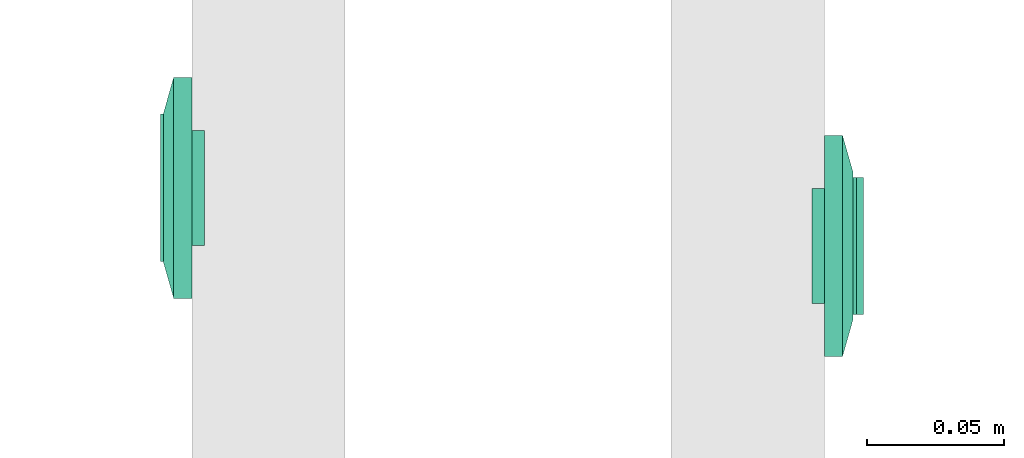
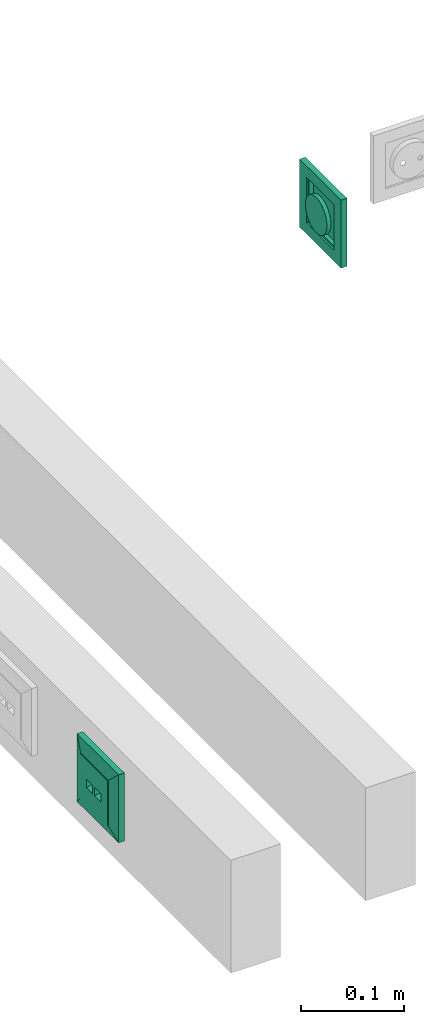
# One storey, part 91 of 166: 2 flow terminals.
"""IFC2X3 building model written with IfcOpenShell, lengths in metres."""

from ifc_helpers import new_model, entity, si_unit, converted_unit, derived_unit, direction, frame, origin, place, context, subcontext, project, spatial, faceted_brep, source, transform, mapped, type_object, type_shapes, element, save


model = new_model("IFC2X3")

# Units and contexts
model_context = context("Model", 3, precision=1e-05, world=origin(), true_north=direction((6.12303176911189e-17, 1.0)))
body_context = subcontext(model_context, "Body", "Model", "MODEL_VIEW")
ifc_project = project(units=[si_unit("LENGTHUNIT", "METRE"), si_unit("AREAUNIT", "SQUARE_METRE"), si_unit("VOLUMEUNIT", "CUBIC_METRE"), converted_unit("PLANEANGLEUNIT", "DEGREE", entity("IfcRatioMeasure", 0.0174532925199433), si_unit("PLANEANGLEUNIT", "RADIAN"), dimensions=[0, 0, 0, 0, 0, 0, 0]), si_unit("MASSUNIT", "GRAM", prefix="KILO"), derived_unit("MASSDENSITYUNIT", [(si_unit("MASSUNIT", "GRAM", prefix="KILO"), 1), (si_unit("LENGTHUNIT", "METRE"), -3)]), si_unit("TIMEUNIT", "SECOND"), si_unit("FREQUENCYUNIT", "HERTZ"), si_unit("THERMODYNAMICTEMPERATUREUNIT", "DEGREE_CELSIUS"), derived_unit("THERMALTRANSMITTANCEUNIT", [(si_unit("MASSUNIT", "GRAM", prefix="KILO"), 1), (si_unit("THERMODYNAMICTEMPERATUREUNIT", "KELVIN"), -1), (si_unit("TIMEUNIT", "SECOND"), -3)]), derived_unit("VOLUMETRICFLOWRATEUNIT", [(si_unit("LENGTHUNIT", "METRE"), 3), (si_unit("TIMEUNIT", "SECOND"), -1)]), si_unit("ELECTRICCURRENTUNIT", "AMPERE"), si_unit("ELECTRICVOLTAGEUNIT", "VOLT"), si_unit("POWERUNIT", "WATT"), si_unit("FORCEUNIT", "NEWTON"), si_unit("ILLUMINANCEUNIT", "LUX"), si_unit("LUMINOUSFLUXUNIT", "LUMEN"), si_unit("LUMINOUSINTENSITYUNIT", "CANDELA"), derived_unit("USERDEFINED", [(si_unit("MASSUNIT", "GRAM", prefix="KILO"), -1), (si_unit("LENGTHUNIT", "METRE"), -2), (si_unit("TIMEUNIT", "SECOND"), 3), (si_unit("LUMINOUSFLUXUNIT", "LUMEN"), 1)]), derived_unit("LINEARVELOCITYUNIT", [(si_unit("LENGTHUNIT", "METRE"), 1), (si_unit("TIMEUNIT", "SECOND"), -1)]), si_unit("PRESSUREUNIT", "PASCAL"), derived_unit("USERDEFINED", [(si_unit("LENGTHUNIT", "METRE"), -2), (si_unit("MASSUNIT", "GRAM", prefix="KILO"), 1), (si_unit("TIMEUNIT", "SECOND"), -2)])], contexts=[model_context])

# Site, building, storey
site_placement = place(None, origin())
site = spatial("IfcSite", under=ifc_project, at=site_placement, Name="Default", CompositionType="ELEMENT")
building_placement = place(site_placement, origin())
building = spatial("IfcBuilding", under=site, at=building_placement, CompositionType="ELEMENT")
storey_placement = place(building_placement, frame((0.0, 0.0, 4.27)))
storey = spatial("IfcBuildingStorey", under=building, at=storey_placement, Name="01", CompositionType="ELEMENT", Elevation=4.27)

# Flow terminals
electric_appliance_type = type_object("IfcElectricApplianceType", Name="RJ45 IP20", PredefinedType="NOTDEFINED")
shared_shape_1 = source(origin(), body_context, "Body", "Brep", [
    faceted_brep([(0.00200000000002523, 0.0, 0.00799999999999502), (0.00400000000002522, 0.0, 0.00799999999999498), (0.00500000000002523, 0.00199999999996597, 0.00799999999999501), (0.0110000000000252, 0.00199999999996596, 0.00799999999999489), (0.0120000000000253, 0.0, 0.00799999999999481), (0.0140000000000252, 0.0, 0.00799999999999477), (0.0140000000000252, 0.00399999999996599, 0.00799999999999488), (0.00200000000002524, 0.00399999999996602, 0.00799999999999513), (0.00200000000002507, 0.0, 0.0), (0.00200000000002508, 0.00399999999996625, 0.0), (0.0140000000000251, 0.00399999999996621, 0.0), (0.0140000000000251, 0.0, 0.0), (0.0120000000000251, 0.0, 0.0), (0.0110000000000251, 0.00199999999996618, 0.0), (0.00500000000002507, 0.0019999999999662, 0.0), (0.00400000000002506, 0.0, 0.0)], [[[0, 1, 2, 3, 4, 5, 6, 7]], [[8, 9, 10, 11, 12, 13, 14, 15]], [[1, 0, 8, 15]], [[2, 1, 15, 14]], [[3, 2, 14, 13]], [[4, 3, 13, 12]], [[5, 4, 12, 11]], [[6, 5, 11, 10]], [[7, 6, 10, 9]], [[0, 7, 9, 8]]]),
    faceted_brep([(-0.0139999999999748, 0.0, 0.00799999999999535), (-0.0119999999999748, 0.0, 0.00799999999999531), (-0.0109999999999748, 0.00199999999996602, 0.00799999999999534), (-0.00499999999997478, 0.00199999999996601, 0.00799999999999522), (-0.0039999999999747, 0.0, 0.00799999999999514), (-0.00199999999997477, 0.0, 0.0079999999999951), (-0.00199999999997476, 0.00399999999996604, 0.00799999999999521), (-0.0139999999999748, 0.00399999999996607, 0.00799999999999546), (-0.0139999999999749, 0.0, 0.0), (-0.0139999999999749, 0.00399999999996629, 0.0), (-0.00199999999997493, 0.00399999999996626, 0.0), (-0.00199999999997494, 0.0, 0.0), (-0.00399999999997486, 0.0, 0.0), (-0.00499999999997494, 0.00199999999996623, 0.0), (-0.0109999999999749, 0.00199999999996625, 0.0), (-0.0119999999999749, 0.0, 0.0)], [[[0, 1, 2, 3, 4, 5, 6, 7]], [[8, 9, 10, 11, 12, 13, 14, 15]], [[1, 0, 8, 15]], [[2, 1, 15, 14]], [[3, 2, 14, 13]], [[4, 3, 13, 12]], [[5, 4, 12, 11]], [[6, 5, 11, 10]], [[7, 6, 10, 9]], [[0, 7, 9, 8]]]),
    faceted_brep([(0.0140000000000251, 0.00399999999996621, 0.0), (0.00200000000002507, 0.00399999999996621, 0.0), (0.00200000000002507, -0.00350000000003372, 0.0), (0.0140000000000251, -0.00350000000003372, 0.0), (0.0140000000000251, 0.00399999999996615, 0.00199999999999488), (0.00200000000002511, 0.00399999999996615, 0.00199999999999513), (0.00200000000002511, -0.00393859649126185, 0.00199999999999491), (0.0140000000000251, -0.00393859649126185, 0.00199999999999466), (0.0210000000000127, 0.0209999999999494, 0.00199999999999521), (-0.0209999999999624, 0.0209999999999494, 0.00199999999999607), (-0.0209999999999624, -0.0210000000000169, 0.00199999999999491), (0.0210000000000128, -0.0210000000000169, 0.00199999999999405), (-0.0139999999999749, 0.0039999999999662, 0.00199999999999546), (-0.0019999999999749, 0.0039999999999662, 0.00199999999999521), (-0.00199999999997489, -0.0039385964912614, 0.00199999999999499), (-0.0139999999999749, -0.00393859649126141, 0.00199999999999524), (0.0210000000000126, 0.0209999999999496, -0.00460000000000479), (0.0210000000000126, -0.0210000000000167, -0.00460000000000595), (-0.0209999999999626, -0.0210000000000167, -0.00460000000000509), (-0.0209999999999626, 0.0209999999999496, -0.00460000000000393), (-0.00199999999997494, 0.00399999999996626, 0.0), (-0.0139999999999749, 0.00399999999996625, 0.0), (-0.0139999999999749, -0.00350000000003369, 0.0), (-0.00199999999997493, -0.00350000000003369, 0.0)], [[[0, 1, 2, 3]], [[1, 0, 4, 5]], [[2, 1, 5, 6]], [[3, 2, 6, 7]], [[0, 3, 7, 4]], [[5, 4, 7, 6], [8, 9, 10, 11], [12, 13, 14, 15]], [[16, 17, 18, 19]], [[9, 8, 16, 19]], [[10, 9, 19, 18]], [[11, 10, 18, 17]], [[8, 11, 17, 16]], [[20, 21, 22, 23]], [[21, 20, 13, 12]], [[22, 21, 12, 15]], [[23, 22, 15, 14]], [[20, 23, 14, 13]]], outer=[[True], [True], [True], [True], [True], [False, True, False], [True], [True], [True], [True], [True], [True], [True], [True], [True], [True]]),
    faceted_brep([(0.0270000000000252, 0.026999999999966, 0.0113999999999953), (-0.0269999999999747, 0.026999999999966, 0.0113999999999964), (-0.0269999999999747, -0.0270000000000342, 0.0113999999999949), (0.0270000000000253, -0.0270000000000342, 0.0113999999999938), (0.0020000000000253, 0.00399999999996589, 0.0113999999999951), (0.0140000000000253, 0.00399999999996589, 0.0113999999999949), (0.0140000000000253, -0.00600000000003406, 0.0113999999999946), (0.0020000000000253, -0.00600000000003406, 0.0113999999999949), (-0.0139999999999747, 0.00399999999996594, 0.0113999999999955), (-0.00199999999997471, 0.00399999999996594, 0.0113999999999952), (-0.00199999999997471, -0.0060000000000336, 0.0113999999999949), (-0.0139999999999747, -0.00600000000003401, 0.0113999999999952), (0.0270000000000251, 0.0269999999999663, 0.00199999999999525), (0.0270000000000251, -0.0270000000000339, 0.00199999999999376), (-0.0269999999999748, -0.0270000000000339, 0.00199999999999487), (-0.0269999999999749, 0.0269999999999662, 0.00199999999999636), (0.0140000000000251, 0.00399999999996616, 0.00199999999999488), (0.00200000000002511, 0.00399999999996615, 0.00199999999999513), (0.00200000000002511, -0.00393859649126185, 0.00199999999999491), (0.0140000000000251, -0.00393859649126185, 0.00199999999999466), (-0.00199999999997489, 0.0039999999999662, 0.00199999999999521), (-0.0139999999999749, 0.0039999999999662, 0.00199999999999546), (-0.0139999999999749, -0.0039385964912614, 0.00199999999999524), (-0.00199999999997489, -0.0039385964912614, 0.00199999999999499)], [[[0, 1, 2, 3], [4, 5, 6, 7], [8, 9, 10, 11]], [[12, 13, 14, 15], [16, 17, 18, 19], [20, 21, 22, 23]], [[1, 0, 12, 15]], [[2, 1, 15, 14]], [[3, 2, 14, 13]], [[0, 3, 13, 12]], [[4, 17, 16, 5]], [[17, 4, 7, 18]], [[18, 7, 6, 19]], [[5, 16, 19, 6]], [[8, 21, 20, 9]], [[21, 8, 11, 22]], [[22, 11, 10, 23]], [[9, 20, 23, 10]]]),
    faceted_brep([(0.027000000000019, 0.0269999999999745, 0.00659999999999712), (-0.0269999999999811, 0.0269999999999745, 0.00659999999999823), (-0.026999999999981, -0.0270000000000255, 0.00659999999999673), (0.027000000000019, -0.0270000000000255, 0.00659999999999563), (0.040350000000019, 0.0403499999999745, 0.00659999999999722), (0.040350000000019, -0.0403500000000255, 0.00659999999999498), (-0.0403499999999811, -0.0403500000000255, 0.00659999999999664), (-0.0403499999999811, 0.0403499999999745, 0.00659999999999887), (-0.026999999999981, 0.0269999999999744, 0.0103999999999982), (0.027000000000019, 0.0269999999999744, 0.0103999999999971), (-0.026999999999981, -0.0270000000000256, 0.0103999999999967), (0.027000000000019, -0.0270000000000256, 0.0103999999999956)], [[[0, 1, 2, 3], [4, 5, 6, 7]], [[4, 7, 8, 9]], [[7, 6, 10, 8]], [[6, 5, 11, 10]], [[5, 4, 9, 11]], [[0, 9, 8, 1]], [[1, 8, 10, 2]], [[2, 10, 11, 3]], [[9, 0, 3, 11]]], outer=[[False, True], [True], [True], [True], [True], [True], [True], [True], [True]]),
    faceted_brep([(0.040350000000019, 0.0403499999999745, 0.00659999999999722), (-0.0403499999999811, 0.0403499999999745, 0.00659999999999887), (-0.0403499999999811, -0.0403500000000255, 0.00659999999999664), (0.040350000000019, -0.0403500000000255, 0.00659999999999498), (-0.0269999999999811, 0.0269999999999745, 0.00659999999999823), (0.0270000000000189, 0.0269999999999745, 0.00659999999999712), (0.0270000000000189, -0.0270000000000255, 0.00659999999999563), (-0.0269999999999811, -0.0270000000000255, 0.00659999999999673), (0.0403500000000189, 0.0403499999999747, 0.0), (0.0403500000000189, -0.0403500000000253, 0.0), (-0.0403499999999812, -0.0403500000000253, 0.0), (-0.0403499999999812, 0.0403499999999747, 0.0), (0.0270000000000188, 0.0269999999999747, 0.0), (-0.0269999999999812, 0.0269999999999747, 0.0), (-0.0269999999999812, -0.0270000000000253, 0.0), (0.0270000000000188, -0.0270000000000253, 0.0)], [[[0, 1, 2, 3], [4, 5, 6, 7]], [[8, 9, 10, 11], [12, 13, 14, 15]], [[1, 0, 8, 11]], [[2, 1, 11, 10]], [[3, 2, 10, 9]], [[0, 3, 9, 8]], [[12, 5, 4, 13]], [[13, 4, 7, 14]], [[14, 7, 6, 15]], [[5, 12, 15, 6]]]),
])
type_shapes(electric_appliance_type, [shared_shape_1])
flow_terminal_1_placement = place(storey_placement, frame((53.3787436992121, -191.789829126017, 0.438000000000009), z_axis=(-1.0, 0.0, 0.0), x_axis=(0.0, -1.0, 0.0)))
element("IfcFlowTerminal", 1, at=flow_terminal_1_placement, inside=storey, type_object=electric_appliance_type, Name="INT_Prise RJ45:RJ45 IP20", ObjectType="INT_Prise RJ45:RJ45 IP20", context=body_context, shape_type="MappedRepresentation", body=[
    mapped(shared_shape_1, transform((0.0, 0.0, 0.0), scale=1.0)),
])
light_fixture_type = type_object("IfcLightFixtureType", Name="BP IP21", PredefinedType="NOTDEFINED")
shared_shape_2 = source(origin(), body_context, "Body", "Brep", [
    faceted_brep([(0.0, 0.0209999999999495, -0.00460000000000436), (0.00543519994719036, 0.02028444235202, -0.00460000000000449), (0.0105000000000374, 0.0181865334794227, -0.00460000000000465), (0.0148492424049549, 0.014849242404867, -0.00460000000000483), (0.0181865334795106, 0.0104999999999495, -0.00460000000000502), (0.0202844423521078, 0.00543519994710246, -0.00460000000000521), (0.0210000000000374, 0.0, -0.00460000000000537), (0.0202844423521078, -0.00543519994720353, -0.00460000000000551), (0.0181865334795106, -0.0105000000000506, -0.0046000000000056), (0.0148492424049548, -0.0148492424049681, -0.00460000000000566), (0.0105000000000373, -0.0181865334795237, -0.00460000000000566), (0.00543519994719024, -0.0202844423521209, -0.00460000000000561), (0.0, -0.0210000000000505, -0.00460000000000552), (-0.00543519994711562, -0.0202844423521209, -0.00460000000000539), (-0.0104999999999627, -0.0181865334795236, -0.00460000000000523), (-0.0148492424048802, -0.0148492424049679, -0.00460000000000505), (-0.0181865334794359, -0.0105000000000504, -0.00460000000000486), (-0.0202844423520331, -0.00543519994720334, -0.00460000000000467), (-0.0209999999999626, 0.0, -0.00460000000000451), (-0.020284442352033, 0.00543519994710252, -0.00460000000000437), (-0.0181865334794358, 0.0104999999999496, -0.00460000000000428), (-0.0148492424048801, 0.0148492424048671, -0.00460000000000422), (-0.0104999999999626, 0.0181865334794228, -0.00460000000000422), (-0.00543519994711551, 0.02028444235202, -0.00460000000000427), (-0.020284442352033, -0.00543519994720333, 0.0), (-0.0209999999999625, 0.0, 0.0), (-0.0181865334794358, -0.0105000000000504, 0.0), (-0.0104999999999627, -0.0181865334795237, 0.0), (-0.0148492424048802, -0.0148492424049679, 0.0), (-0.00543519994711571, -0.020284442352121, 0.0), (0.0, -0.0210000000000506, 0.0), (0.00543519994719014, -0.0202844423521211, 0.0), (0.0105000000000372, -0.018186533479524, 0.0), (0.0181865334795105, -0.0105000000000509, 0.0), (0.0148492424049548, -0.0148492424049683, 0.0), (0.0202844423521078, -0.00543519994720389, 0.0), (0.0210000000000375, 0.0, 0.0), (0.0202844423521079, 0.00543519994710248, 0.0), (0.0181865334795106, 0.0104999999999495, 0.0), (0.0105000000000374, 0.0181865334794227, 0.0), (0.0148492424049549, 0.014849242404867, 0.0), (0.00543519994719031, 0.0202844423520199, 0.0), (0.0, 0.0209999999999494, 0.0), (-0.00543519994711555, 0.0202844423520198, 0.0), (-0.0104999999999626, 0.0181865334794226, 0.0), (-0.0181865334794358, 0.0104999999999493, 0.0), (-0.0148492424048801, 0.0148492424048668, 0.0), (-0.020284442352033, 0.00543519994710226, 0.0)], [[[0, 1, 2, 3, 4, 5, 6, 7, 8, 9, 10, 11, 12, 13, 14, 15, 16, 17, 18, 19, 20, 21, 22, 23]], [[17, 24, 25, 18]], [[16, 26, 24, 17]], [[27, 28, 15, 14]], [[16, 15, 28, 26]], [[29, 27, 14, 13]], [[30, 29, 13, 12]], [[11, 31, 30, 12]], [[10, 32, 31, 11]], [[33, 34, 9, 8]], [[10, 9, 34, 32]], [[35, 33, 8, 7]], [[36, 35, 7, 6]], [[5, 37, 36, 6]], [[4, 38, 37, 5]], [[39, 40, 3, 2]], [[4, 3, 40, 38]], [[41, 39, 2, 1]], [[42, 41, 1, 0]], [[23, 43, 42, 0]], [[22, 44, 43, 23]], [[45, 46, 21, 20]], [[22, 21, 46, 44]], [[47, 45, 20, 19]], [[25, 47, 19, 18]], [[25, 24, 26, 28, 27, 29, 30, 31, 32, 34, 33, 35, 36, 37, 38, 40, 39, 41, 42, 43, 44, 46, 45, 47]]]),
    faceted_brep([(0.0270000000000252, 0.026999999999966, 0.0103999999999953), (-0.0269999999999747, 0.026999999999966, 0.0103999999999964), (-0.0269999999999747, -0.0270000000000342, 0.0103999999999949), (0.0270000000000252, -0.0270000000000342, 0.0103999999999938), (-0.0254999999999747, 0.0258096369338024, 0.0103999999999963), (0.0255000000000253, 0.0258096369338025, 0.0103999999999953), (0.0255000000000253, -0.0255000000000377, 0.0103999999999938), (-0.0254999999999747, -0.0255000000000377, 0.0103999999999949), (0.0270000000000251, 0.0269999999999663, 0.00199999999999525), (0.0270000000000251, -0.0270000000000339, 0.00199999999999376), (-0.0269999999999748, -0.0270000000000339, 0.00199999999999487), (-0.0269999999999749, 0.0269999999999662, 0.00199999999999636), (0.0255000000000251, 0.0258096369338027, 0.00199999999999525), (-0.0254999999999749, 0.0258096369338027, 0.0019999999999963), (-0.0254999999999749, -0.0255000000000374, 0.00199999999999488), (0.0255000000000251, -0.0255000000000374, 0.00199999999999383)], [[[0, 1, 2, 3], [4, 5, 6, 7]], [[8, 9, 10, 11], [12, 13, 14, 15]], [[1, 0, 8, 11]], [[2, 1, 11, 10]], [[3, 2, 10, 9]], [[0, 3, 9, 8]], [[12, 5, 4, 13]], [[13, 4, 7, 14]], [[14, 7, 6, 15]], [[5, 12, 15, 6]]]),
    faceted_brep([(0.0250000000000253, 0.0253096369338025, 0.00659999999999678), (0.0250000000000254, 0.0253096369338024, 0.0117095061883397), (0.0250000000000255, -0.0245000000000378, 0.0142232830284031), (0.0250000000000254, -0.0250000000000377, 0.0117095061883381), (0.0250000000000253, -0.0250000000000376, 0.00659999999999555), (-0.0249999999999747, 0.0253096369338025, 0.00659999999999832), (-0.0249999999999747, -0.0250000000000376, 0.00659999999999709), (-0.0249999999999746, -0.0250000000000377, 0.0117095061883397), (-0.0249999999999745, -0.0245000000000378, 0.0142232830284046), (-0.0249999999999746, 0.0253096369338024, 0.0117095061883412)], [[[0, 1, 2, 3, 4]], [[5, 6, 7, 8, 9]], [[1, 0, 5, 9]], [[2, 1, 9, 8]], [[3, 2, 8, 7]], [[4, 3, 7, 6]], [[0, 4, 6, 5]]]),
    faceted_brep([(0.027000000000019, 0.0269999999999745, 0.00659999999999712), (-0.0269999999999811, 0.0269999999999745, 0.00659999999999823), (-0.026999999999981, -0.0270000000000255, 0.00659999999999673), (0.027000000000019, -0.0270000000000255, 0.00659999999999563), (0.040350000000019, 0.0403499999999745, 0.00659999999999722), (0.040350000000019, -0.0403500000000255, 0.00659999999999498), (-0.0403499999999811, -0.0403500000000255, 0.00659999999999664), (-0.0403499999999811, 0.0403499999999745, 0.00659999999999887), (-0.026999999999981, 0.0269999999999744, 0.0103999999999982), (0.027000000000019, 0.0269999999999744, 0.0103999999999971), (-0.026999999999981, -0.0270000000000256, 0.0103999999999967), (0.027000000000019, -0.0270000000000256, 0.0103999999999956)], [[[0, 1, 2, 3], [4, 5, 6, 7]], [[4, 7, 8, 9]], [[7, 6, 10, 8]], [[6, 5, 11, 10]], [[5, 4, 9, 11]], [[0, 9, 8, 1]], [[1, 8, 10, 2]], [[2, 10, 11, 3]], [[9, 0, 3, 11]]], outer=[[False, True], [True], [True], [True], [True], [True], [True], [True], [True]]),
    faceted_brep([(0.040350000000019, 0.0403499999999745, 0.00659999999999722), (-0.0403499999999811, 0.0403499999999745, 0.00659999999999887), (-0.0403499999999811, -0.0403500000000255, 0.00659999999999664), (0.040350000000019, -0.0403500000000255, 0.00659999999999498), (-0.0269999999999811, 0.0269999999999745, 0.00659999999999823), (0.0270000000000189, 0.0269999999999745, 0.00659999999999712), (0.0270000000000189, -0.0270000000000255, 0.00659999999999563), (-0.0269999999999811, -0.0270000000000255, 0.00659999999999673), (0.0403500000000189, 0.0403499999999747, 0.0), (0.0403500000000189, -0.0403500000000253, 0.0), (-0.0403499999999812, -0.0403500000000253, 0.0), (-0.0403499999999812, 0.0403499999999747, 0.0), (0.0270000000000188, 0.0269999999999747, 0.0), (-0.0269999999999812, 0.0269999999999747, 0.0), (-0.0269999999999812, -0.0270000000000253, 0.0), (0.0270000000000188, -0.0270000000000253, 0.0)], [[[0, 1, 2, 3], [4, 5, 6, 7]], [[8, 9, 10, 11], [12, 13, 14, 15]], [[1, 0, 8, 11]], [[2, 1, 11, 10]], [[3, 2, 10, 9]], [[0, 3, 9, 8]], [[12, 5, 4, 13]], [[13, 4, 7, 14]], [[14, 7, 6, 15]], [[5, 12, 15, 6]]]),
])
type_shapes(light_fixture_type, [shared_shape_2])
flow_terminal_2_placement = place(building_placement, frame((53.609743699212, -191.811009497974, 5.32000000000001), z_axis=(1.0, 0.0, 0.0), x_axis=(0.0, 1.0, 0.0)))
element("IfcFlowTerminal", 2, at=flow_terminal_2_placement, inside=storey, type_object=light_fixture_type, Name="INT_Cmd BA:BP IP21", ObjectType="INT_Cmd BA:BP IP21", context=body_context, shape_type="MappedRepresentation", body=[
    mapped(shared_shape_2, transform((0.0, 0.0, 0.0), scale=1.0)),
])

save(model, "model.ifc")
